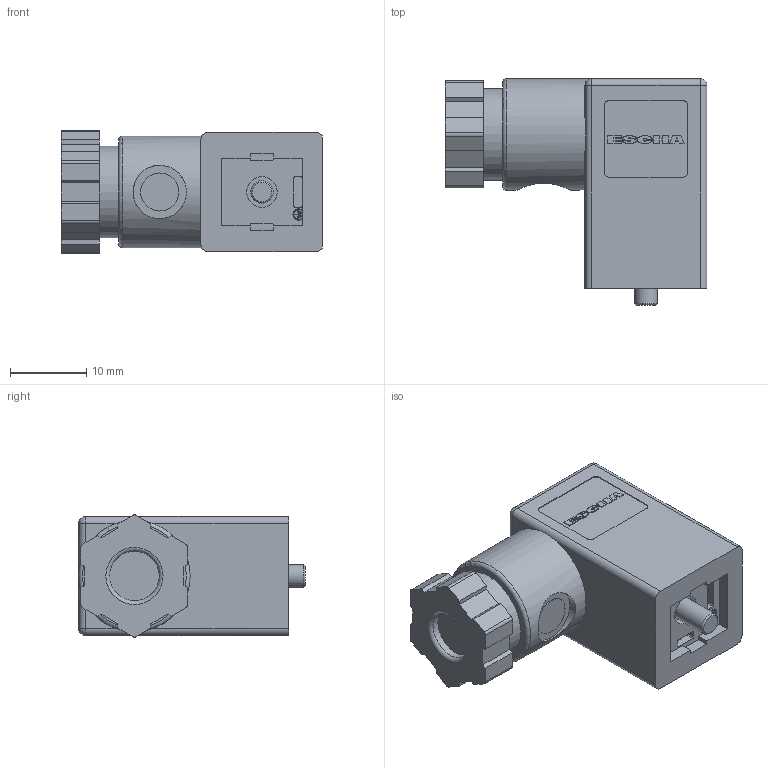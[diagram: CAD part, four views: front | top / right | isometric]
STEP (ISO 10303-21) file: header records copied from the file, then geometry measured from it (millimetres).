
FILE_DESCRIPTION(/* description */ (''),/* implementation_level */ '2;1');
FILE_NAME(/* name */ 'VC-CC9.21-0.220-K.stp',/* time_stamp */ '2017-10-25T09:39:06+02:00',/* author */ (''),/* organization */ (''),/* preprocessor_version */ 'ST-DEVELOPER v16',/* originating_system */ 'SIEMENS PLM Software NX 10.0',/* authorisation */ '');
FILE_SCHEMA (('AUTOMOTIVE_DESIGN { 1 0 10303 214 3 1 1 1 }'));
Length unit declared in the file: millimetre
Products named in the file (1): VC-CC9.21-0.220-K
Bounding box: 34.34 x 29.7 x 16.01 mm (x, y, z)
Volume: 9255.4 mm3; surface area: 3749.6 mm2
Topology: 1 solids, 1 shells, 912 faces, 2635 edges, 1751 vertices
Faces by surface type: plane 767, cylinder 122, torus 6, sphere 6, bspline 6, cone 5
Full cylindrical faces by diameter (mm): 3 x1, 4 x1, 5 x1, 6.5 x1, 7 x1, 7.2 x1, 12 x1, 14.6 x1
Entity records: 30000 total; most frequent: CARTESIAN_POINT 5877, ORIENTED_EDGE 5226, DIRECTION 4664, EDGE_CURVE 2613, LINE 2322, VECTOR 2322, VERTEX_POINT 1744, AXIS2_PLACEMENT_3D 1171
